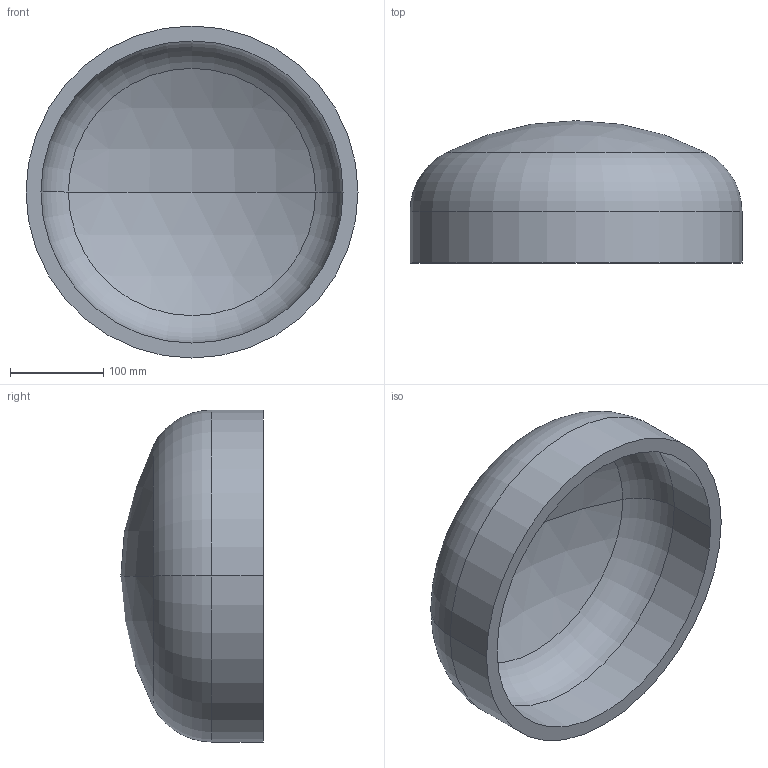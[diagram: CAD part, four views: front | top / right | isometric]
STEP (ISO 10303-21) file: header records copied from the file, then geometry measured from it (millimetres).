
FILE_DESCRIPTION (( 'STEP AP203' ), '1' );
FILE_NAME ('DIN 28013 Korbbogenform_-_Boden DIN 28013 - 355,6 x 55 - I - s=16.step', '2016-07-01T07:46:41', ( '' ), ( '' ), 'SwSTEP 2.0', 'SolidWorks 2013', '' );
FILE_SCHEMA (( 'CONFIG_CONTROL_DESIGN' ));
Length unit declared in the file: millimetre
Products named in the file (1): DIN 28013 Korbbogenform_-_Boden DIN 28013 - 355,6 x 55 - I - s=16
Bounding box: 355.6 x 152.43 x 355.6 mm (x, y, z)
Volume: 3017561.5 mm3; surface area: 394801.4 mm2
Topology: 1 solids, 1 shells, 13 faces, 24 edges, 14 vertices
Faces by surface type: torus 4, cylinder 4, sphere 4, plane 1
Entity records: 407 total; most frequent: DIRECTION 72, CARTESIAN_POINT 52, ORIENTED_EDGE 48, AXIS2_PLACEMENT_3D 34, EDGE_CURVE 24, CIRCLE 20, EDGE_LOOP 14, VERTEX_POINT 14
